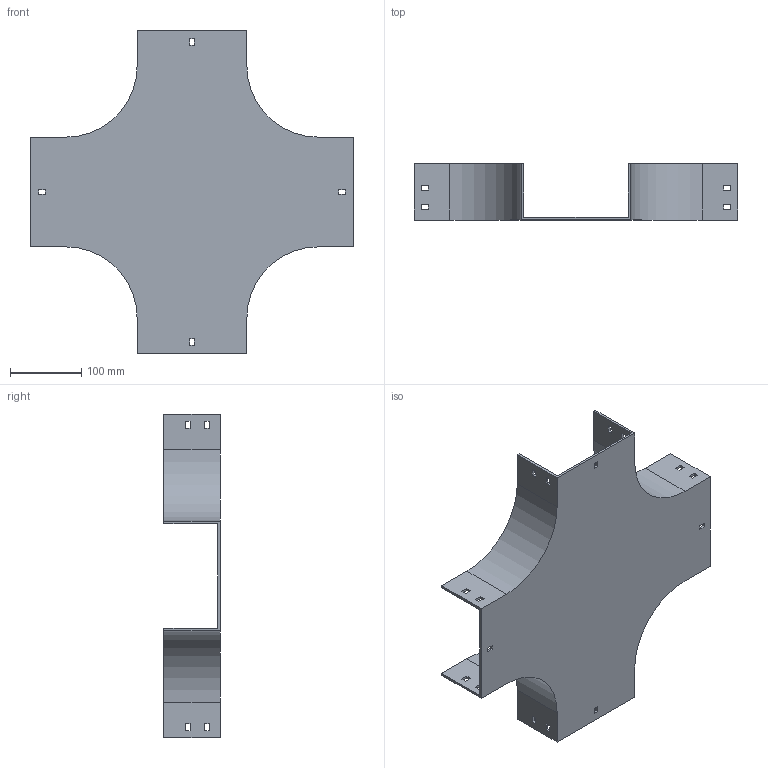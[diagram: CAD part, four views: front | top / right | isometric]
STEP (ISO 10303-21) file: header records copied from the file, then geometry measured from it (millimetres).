
FILE_DESCRIPTION (( 'STEP AP214' ), '1' );
FILE_NAME ('17B1C150.step', '2025-02-21T09:58:11', ( '' ), ( '' ), 'SwSTEP 2.0', 'SolidWorks 2023', '' );
FILE_SCHEMA (( 'AUTOMOTIVE_DESIGN' ));
Length unit declared in the file: millimetre
Products named in the file (1): 17B1C150
Bounding box: 454 x 79 x 454 mm (x, y, z)
Volume: 706350 mm3; surface area: 413835.7 mm2
Topology: 1 solids, 1 shells, 114 faces, 336 edges, 224 vertices
Faces by surface type: plane 106, cylinder 8
Entity records: 3839 total; most frequent: CARTESIAN_POINT 675, ORIENTED_EDGE 672, DIRECTION 582, EDGE_CURVE 336, LINE 320, VECTOR 320, VERTEX_POINT 224, EDGE_LOOP 154
